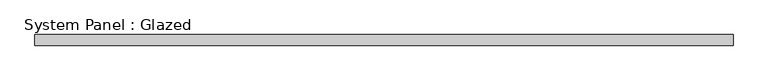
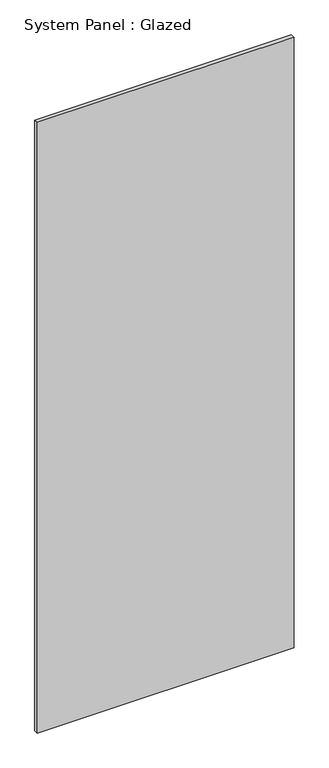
"""IFC4 building model written with IfcOpenShell, lengths in millimetres: plate geometry, System Panel : Glazed."""

from ifc_helpers import new_model, si_unit, origin, origin_with_axes, place, context, project, spatial, polyline, outline, extrude, source, transform, mapped, element, save


def system_panel_glazed_fd55c559(model_context):
    return source(origin(), model_context, "Body", "SweptSolid", [
        extrude(outline(polyline([(810.7083334, 19.05), (-810.7083334, 19.05), (-810.7083334, 44.45), (810.7083334, 44.45), (810.7083334, 19.05)])), origin_with_axes(), (0.0, 0.0, 1.0), 4073.0),
    ])


if __name__ == "__main__":
    model = new_model("IFC4")
    model_context = context("Model", 3, world=origin())
    ifc_project = project(units=[si_unit("LENGTHUNIT", "METRE", prefix="MILLI")], contexts=[model_context])
    site = spatial("IfcSite", under=ifc_project)
    building = spatial("IfcBuilding", under=site)
    placement = place(None, origin())
    system_panel_glazed_shape = system_panel_glazed_fd55c559(model_context)
    element("IfcPlate", 1, ObjectType="System Panel : Glazed", at=placement, inside=building, context=model_context, shape_type="MappedRepresentation", body=[
        mapped(system_panel_glazed_shape, transform((0.0, 0.0, 0.0), x_axis=(1.0, 0.0, 0.0), y_axis=(0.0, 1.0, 0.0), z_axis=(0.0, 0.0, 1.0))),
    ])
    save(model, "model.ifc")
